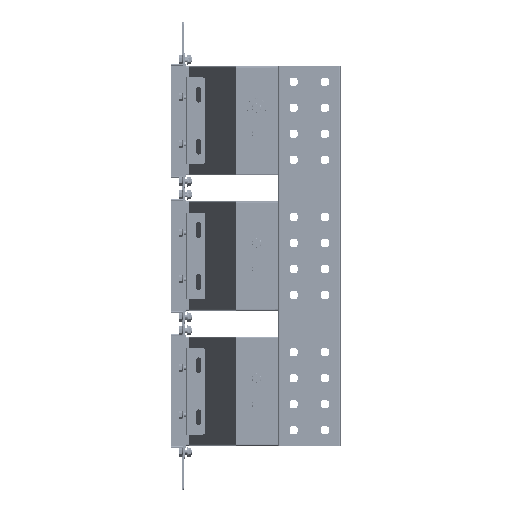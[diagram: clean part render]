
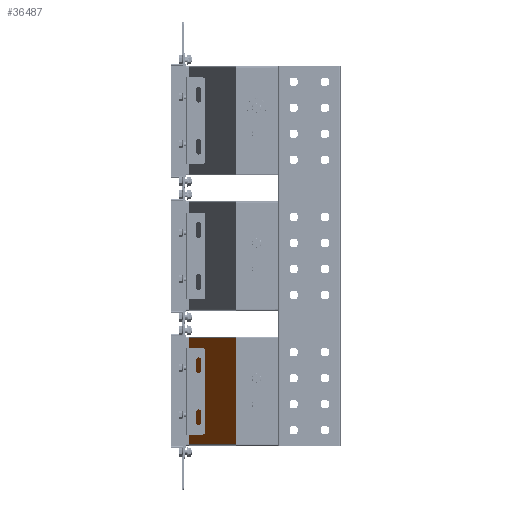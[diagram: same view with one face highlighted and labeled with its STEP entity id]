
A CAD part, front view. The second image highlights one B-rep face of the part: STEP entity #36487.
In plain terms, the highlighted planar face has unit normal (-0.916, -0.401, 0).
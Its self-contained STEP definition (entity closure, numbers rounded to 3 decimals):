
#36479=AXIS2_PLACEMENT_3D('Plane Axis2P3D',#36476,#36477,#36478) ;
#34891=CARTESIAN_POINT('Vertex',(98.266,-217.65,-102.35)) ;
#34905=CARTESIAN_POINT('Vertex',(98.266,-217.65,102.35)) ;
#34908=CARTESIAN_POINT('Line Origine',(98.266,-217.65,0.)) ;
#35693=CARTESIAN_POINT('Vertex',(8.266,-11.74,102.35)) ;
#35696=CARTESIAN_POINT('Line Origine',(52.572,-113.106,102.35)) ;
#35803=CARTESIAN_POINT('Vertex',(8.266,-11.74,-102.35)) ;
#35838=CARTESIAN_POINT('Line Origine',(52.572,-113.106,-102.35)) ;
#35880=CARTESIAN_POINT('Line Origine',(8.266,-11.74,0.)) ;
#36476=CARTESIAN_POINT('Axis2P3D Location',(98.961,-219.239,-102.35)) ;
#34909=DIRECTION('Vector Direction',(0.,0.,1.)) ;
#35697=DIRECTION('Vector Direction',(0.4,-0.916,0.)) ;
#35839=DIRECTION('Vector Direction',(0.4,-0.916,0.)) ;
#35881=DIRECTION('Vector Direction',(0.,0.,1.)) ;
#36477=DIRECTION('Axis2P3D Direction',(-0.916,-0.4,0.)) ;
#36478=DIRECTION('Axis2P3D XDirection',(0.,0.,1.)) ;
#34910=VECTOR('Line Direction',#34909,1.) ;
#35698=VECTOR('Line Direction',#35697,1.) ;
#35840=VECTOR('Line Direction',#35839,1.) ;
#35882=VECTOR('Line Direction',#35881,1.) ;
#36482=ORIENTED_EDGE('',*,*,#35700,.T.) ;
#36483=ORIENTED_EDGE('',*,*,#35884,.F.) ;
#36484=ORIENTED_EDGE('',*,*,#35842,.F.) ;
#36485=ORIENTED_EDGE('',*,*,#34912,.T.) ;
#36487=ADVANCED_FACE('N',(#36486),#36480,.T.) ;
#34912=EDGE_CURVE('',#34892,#34906,#34911,.T.) ;
#35700=EDGE_CURVE('',#34906,#35694,#35699,.F.) ;
#35842=EDGE_CURVE('',#34892,#35804,#35841,.F.) ;
#35884=EDGE_CURVE('',#35804,#35694,#35883,.T.) ;
#36481=EDGE_LOOP('',(#36482,#36483,#36484,#36485)) ;
#36486=FACE_OUTER_BOUND('',#36481,.T.) ;
#34911=LINE('Line',#34908,#34910) ;
#35699=LINE('Line',#35696,#35698) ;
#35841=LINE('Line',#35838,#35840) ;
#35883=LINE('Line',#35880,#35882) ;
#36480=PLANE('',#36479) ;
#34892=VERTEX_POINT('',#34891) ;
#34906=VERTEX_POINT('',#34905) ;
#35694=VERTEX_POINT('',#35693) ;
#35804=VERTEX_POINT('',#35803) ;
